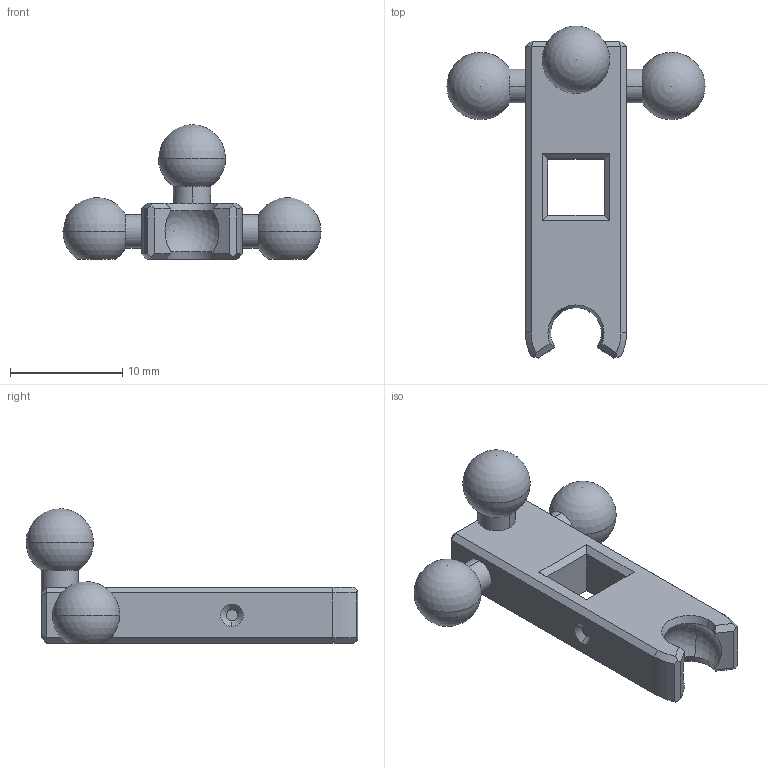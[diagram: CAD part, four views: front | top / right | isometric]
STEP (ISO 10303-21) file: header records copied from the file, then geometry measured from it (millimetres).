
FILE_DESCRIPTION (( 'STEP AP214' ), '1' );
FILE_NAME ('Rib.STEP', '2023-12-23T22:21:15', ( '' ), ( '' ), 'SwSTEP 2.0', 'SolidWorks 2023', '' );
FILE_SCHEMA (( 'AUTOMOTIVE_DESIGN' ));
Length unit declared in the file: millimetre
Products named in the file (1): Rib
Bounding box: 23 x 29.56 x 12 mm (x, y, z)
Volume: 1366.7 mm3; surface area: 1201.4 mm2
Topology: 1 solids, 1 shells, 72 faces, 190 edges, 120 vertices
Faces by surface type: plane 42, cone 14, sphere 8, cylinder 8
Entity records: 2169 total; most frequent: CARTESIAN_POINT 436, DIRECTION 362, ORIENTED_EDGE 350, EDGE_CURVE 175, AXIS2_PLACEMENT_3D 130, VERTEX_POINT 112, LINE 102, VECTOR 102
